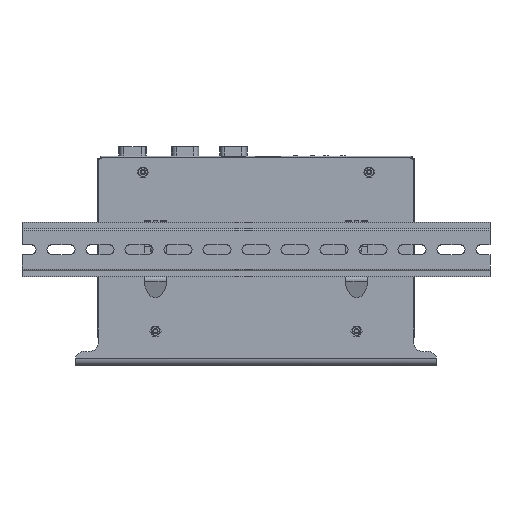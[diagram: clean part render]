
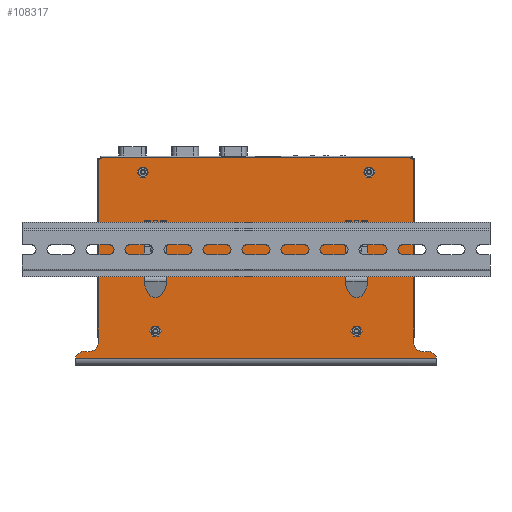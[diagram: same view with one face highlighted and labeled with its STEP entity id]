
A CAD part, front view. The second image highlights one B-rep face of the part: STEP entity #108317.
In plain terms, the highlighted planar face has unit normal (0, -1, 0) as drawn and (0, 0, -1) by its records, which use the part's own axes.
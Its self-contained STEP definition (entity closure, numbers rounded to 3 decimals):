
#107598=CARTESIAN_POINT('',(115.814,69.5,0.));
#107600=CARTESIAN_POINT('',(99.,-57.,0.));
#107601=DIRECTION('',(0.,0.,-1.));
#107602=DIRECTION('',(1.,0.,0.));
#107603=AXIS2_PLACEMENT_3D('',#107600,#107601,#107602);
#107605=DIRECTION('',(0.,-1.,0.));
#107606=VECTOR('',#107605,116.);
#107607=CARTESIAN_POINT('',(101.,59.,0.));
#107608=LINE('',#107607,#107606);
#107609=CARTESIAN_POINT('',(107.15,59.,0.));
#107610=DIRECTION('',(0.,0.,1.));
#107611=DIRECTION('',(0.22,0.976,0.));
#107612=AXIS2_PLACEMENT_3D('',#107609,#107610,#107611);
#107614=CARTESIAN_POINT('',(109.85,71.,0.));
#107615=DIRECTION('',(0.,0.,-1.));
#107616=DIRECTION('',(0.97,-0.244,0.));
#107617=AXIS2_PLACEMENT_3D('',#107614,#107615,#107616);
#107619=DIRECTION('',(1.,0.,0.));
#107620=VECTOR('',#107619,231.629);
#107621=CARTESIAN_POINT('',(-115.814,69.5,0.));
#107622=LINE('',#107621,#107620);
#107623=CARTESIAN_POINT('',(-109.85,71.,0.));
#107624=DIRECTION('',(0.,0.,-1.));
#107625=DIRECTION('',(0.22,-0.976,0.));
#107626=AXIS2_PLACEMENT_3D('',#107623,#107624,#107625);
#107628=CARTESIAN_POINT('',(-107.15,59.,0.));
#107629=DIRECTION('',(0.,0.,1.));
#107630=DIRECTION('',(1.,0.,0.));
#107631=AXIS2_PLACEMENT_3D('',#107628,#107629,#107630);
#107633=DIRECTION('',(0.,1.,0.));
#107634=VECTOR('',#107633,116.);
#107635=CARTESIAN_POINT('',(-101.,-57.,0.));
#107636=LINE('',#107635,#107634);
#107637=CARTESIAN_POINT('',(-99.,-57.,0.));
#107638=DIRECTION('',(0.,0.,-1.));
#107639=DIRECTION('',(0.,-1.,0.));
#107640=AXIS2_PLACEMENT_3D('',#107637,#107638,#107639);
#107642=DIRECTION('',(-1.,0.,0.));
#107643=VECTOR('',#107642,198.);
#107644=CARTESIAN_POINT('',(99.,-59.,0.));
#107645=LINE('',#107644,#107643);
#107646=CARTESIAN_POINT('',(-72.5,-50.,0.));
#107647=DIRECTION('',(0.,0.,1.));
#107648=DIRECTION('',(-1.,0.,0.));
#107649=AXIS2_PLACEMENT_3D('',#107646,#107647,#107648);
#107651=CARTESIAN_POINT('',(-72.5,-50.,0.));
#107652=DIRECTION('',(0.,0.,1.));
#107653=DIRECTION('',(1.,0.,0.));
#107654=AXIS2_PLACEMENT_3D('',#107651,#107652,#107653);
#107656=CARTESIAN_POINT('',(64.5,52.,0.));
#107657=DIRECTION('',(0.,0.,1.));
#107658=DIRECTION('',(-1.,0.,0.));
#107659=AXIS2_PLACEMENT_3D('',#107656,#107657,#107658);
#107661=CARTESIAN_POINT('',(64.5,52.,0.));
#107662=DIRECTION('',(0.,0.,1.));
#107663=DIRECTION('',(1.,0.,0.));
#107664=AXIS2_PLACEMENT_3D('',#107661,#107662,#107663);
#107666=CARTESIAN_POINT('',(-64.5,0.,0.));
#107667=DIRECTION('',(0.,0.,1.));
#107668=DIRECTION('',(-1.,0.,0.));
#107669=AXIS2_PLACEMENT_3D('',#107666,#107667,#107668);
#107671=CARTESIAN_POINT('',(-64.5,0.,0.));
#107672=DIRECTION('',(0.,0.,1.));
#107673=DIRECTION('',(1.,0.,0.));
#107674=AXIS2_PLACEMENT_3D('',#107671,#107672,#107673);
#107676=CARTESIAN_POINT('',(64.5,0.,0.));
#107677=DIRECTION('',(0.,0.,1.));
#107678=DIRECTION('',(-1.,0.,0.));
#107679=AXIS2_PLACEMENT_3D('',#107676,#107677,#107678);
#107681=CARTESIAN_POINT('',(64.5,0.,0.));
#107682=DIRECTION('',(0.,0.,1.));
#107683=DIRECTION('',(1.,0.,0.));
#107684=AXIS2_PLACEMENT_3D('',#107681,#107682,#107683);
#107686=CARTESIAN_POINT('',(-64.5,52.,0.));
#107687=DIRECTION('',(0.,0.,1.));
#107688=DIRECTION('',(-1.,0.,0.));
#107689=AXIS2_PLACEMENT_3D('',#107686,#107687,#107688);
#107691=CARTESIAN_POINT('',(-64.5,52.,0.));
#107692=DIRECTION('',(0.,0.,1.));
#107693=DIRECTION('',(1.,0.,0.));
#107694=AXIS2_PLACEMENT_3D('',#107691,#107692,#107693);
#107696=CARTESIAN_POINT('',(72.5,-50.,0.));
#107697=DIRECTION('',(0.,0.,1.));
#107698=DIRECTION('',(-1.,0.,0.));
#107699=AXIS2_PLACEMENT_3D('',#107696,#107697,#107698);
#107701=CARTESIAN_POINT('',(72.5,-50.,0.));
#107702=DIRECTION('',(0.,0.,1.));
#107703=DIRECTION('',(1.,0.,0.));
#107704=AXIS2_PLACEMENT_3D('',#107701,#107702,#107703);
#107966=CARTESIAN_POINT('',(99.,-59.,0.));
#107967=VERTEX_POINT('',#107966);
#107968=CARTESIAN_POINT('',(101.,-57.,0.));
#107969=VERTEX_POINT('',#107968);
#107972=CARTESIAN_POINT('',(-99.,-59.,0.));
#107973=VERTEX_POINT('',#107972);
#107988=CARTESIAN_POINT('',(-101.,-57.,0.));
#107989=VERTEX_POINT('',#107988);
#107990=CARTESIAN_POINT('',(-101.,59.,0.));
#107991=VERTEX_POINT('',#107990);
#107998=VERTEX_POINT('',#107598);
#107999=CARTESIAN_POINT('',(-115.814,69.5,0.));
#108000=VERTEX_POINT('',#107999);
#108001=CARTESIAN_POINT('',(-108.5,65.,0.));
#108002=VERTEX_POINT('',#108001);
#108003=CARTESIAN_POINT('',(108.5,65.,0.));
#108004=VERTEX_POINT('',#108003);
#108005=CARTESIAN_POINT('',(101.,59.,0.));
#108006=VERTEX_POINT('',#108005);
#108023=CARTESIAN_POINT('',(-75.225,-50.,0.));
#108025=VERTEX_POINT('',#108023);
#108027=CARTESIAN_POINT('',(-69.775,-50.,0.));
#108029=VERTEX_POINT('',#108027);
#108031=CARTESIAN_POINT('',(61.775,52.,0.));
#108033=VERTEX_POINT('',#108031);
#108035=CARTESIAN_POINT('',(67.225,52.,0.));
#108037=VERTEX_POINT('',#108035);
#108039=CARTESIAN_POINT('',(-67.225,0.,0.));
#108041=VERTEX_POINT('',#108039);
#108043=CARTESIAN_POINT('',(-61.775,0.,0.));
#108045=VERTEX_POINT('',#108043);
#108047=CARTESIAN_POINT('',(61.775,0.,0.));
#108049=VERTEX_POINT('',#108047);
#108051=CARTESIAN_POINT('',(67.225,0.,0.));
#108053=VERTEX_POINT('',#108051);
#108055=CARTESIAN_POINT('',(-67.225,52.,0.));
#108057=VERTEX_POINT('',#108055);
#108059=CARTESIAN_POINT('',(-61.775,52.,0.));
#108061=VERTEX_POINT('',#108059);
#108063=CARTESIAN_POINT('',(69.775,-50.,0.));
#108065=VERTEX_POINT('',#108063);
#108067=CARTESIAN_POINT('',(75.225,-50.,0.));
#108069=VERTEX_POINT('',#108067);
#108255=CARTESIAN_POINT('',(0.,5.25,0.));
#108256=DIRECTION('',(0.,0.,1.));
#108257=DIRECTION('',(-1.,0.,0.));
#108258=AXIS2_PLACEMENT_3D('',#108255,#108256,#108257);
#108259=PLANE('',#108258);
#108261=ORIENTED_EDGE('',*,*,#108260,.F.);
#108263=ORIENTED_EDGE('',*,*,#108262,.F.);
#108265=ORIENTED_EDGE('',*,*,#108264,.F.);
#108267=ORIENTED_EDGE('',*,*,#108266,.F.);
#108268=ORIENTED_EDGE('',*,*,#108248,.F.);
#108270=ORIENTED_EDGE('',*,*,#108269,.F.);
#108272=ORIENTED_EDGE('',*,*,#108271,.F.);
#108274=ORIENTED_EDGE('',*,*,#108273,.F.);
#108276=ORIENTED_EDGE('',*,*,#108275,.F.);
#108278=ORIENTED_EDGE('',*,*,#108277,.F.);
#108279=EDGE_LOOP('',(#108261,#108263,#108265,#108267,#108268,#108270,#108272,
#108274,#108276,#108278));
#108280=FACE_OUTER_BOUND('',#108279,.F.);
#108282=ORIENTED_EDGE('',*,*,#108281,.F.);
#108284=ORIENTED_EDGE('',*,*,#108283,.F.);
#108285=EDGE_LOOP('',(#108282,#108284));
#108286=FACE_BOUND('',#108285,.F.);
#108288=ORIENTED_EDGE('',*,*,#108287,.F.);
#108290=ORIENTED_EDGE('',*,*,#108289,.F.);
#108291=EDGE_LOOP('',(#108288,#108290));
#108292=FACE_BOUND('',#108291,.F.);
#108294=ORIENTED_EDGE('',*,*,#108293,.F.);
#108296=ORIENTED_EDGE('',*,*,#108295,.F.);
#108297=EDGE_LOOP('',(#108294,#108296));
#108298=FACE_BOUND('',#108297,.F.);
#108300=ORIENTED_EDGE('',*,*,#108299,.F.);
#108302=ORIENTED_EDGE('',*,*,#108301,.F.);
#108303=EDGE_LOOP('',(#108300,#108302));
#108304=FACE_BOUND('',#108303,.F.);
#108306=ORIENTED_EDGE('',*,*,#108305,.F.);
#108308=ORIENTED_EDGE('',*,*,#108307,.F.);
#108309=EDGE_LOOP('',(#108306,#108308));
#108310=FACE_BOUND('',#108309,.F.);
#108312=ORIENTED_EDGE('',*,*,#108311,.F.);
#108314=ORIENTED_EDGE('',*,*,#108313,.F.);
#108315=EDGE_LOOP('',(#108312,#108314));
#108316=FACE_BOUND('',#108315,.F.);
#107604=CIRCLE('',#107603,2.);
#107613=CIRCLE('',#107612,6.15);
#107618=CIRCLE('',#107617,6.15);
#107627=CIRCLE('',#107626,6.15);
#107632=CIRCLE('',#107631,6.15);
#107641=CIRCLE('',#107640,2.);
#107650=CIRCLE('',#107649,2.725);
#107655=CIRCLE('',#107654,2.725);
#107660=CIRCLE('',#107659,2.725);
#107665=CIRCLE('',#107664,2.725);
#107670=CIRCLE('',#107669,2.725);
#107675=CIRCLE('',#107674,2.725);
#107680=CIRCLE('',#107679,2.725);
#107685=CIRCLE('',#107684,2.725);
#107690=CIRCLE('',#107689,2.725);
#107695=CIRCLE('',#107694,2.725);
#107700=CIRCLE('',#107699,2.725);
#107705=CIRCLE('',#107704,2.725);
#108248=EDGE_CURVE('',#108000,#107998,#107622,.T.);
#108260=EDGE_CURVE('',#107969,#107967,#107604,.T.);
#108262=EDGE_CURVE('',#108006,#107969,#107608,.T.);
#108264=EDGE_CURVE('',#108004,#108006,#107613,.T.);
#108266=EDGE_CURVE('',#107998,#108004,#107618,.T.);
#108269=EDGE_CURVE('',#108002,#108000,#107627,.T.);
#108271=EDGE_CURVE('',#107991,#108002,#107632,.T.);
#108273=EDGE_CURVE('',#107989,#107991,#107636,.T.);
#108275=EDGE_CURVE('',#107973,#107989,#107641,.T.);
#108277=EDGE_CURVE('',#107967,#107973,#107645,.T.);
#108281=EDGE_CURVE('',#108025,#108029,#107650,.T.);
#108283=EDGE_CURVE('',#108029,#108025,#107655,.T.);
#108287=EDGE_CURVE('',#108033,#108037,#107660,.T.);
#108289=EDGE_CURVE('',#108037,#108033,#107665,.T.);
#108293=EDGE_CURVE('',#108041,#108045,#107670,.T.);
#108295=EDGE_CURVE('',#108045,#108041,#107675,.T.);
#108299=EDGE_CURVE('',#108049,#108053,#107680,.T.);
#108301=EDGE_CURVE('',#108053,#108049,#107685,.T.);
#108305=EDGE_CURVE('',#108057,#108061,#107690,.T.);
#108307=EDGE_CURVE('',#108061,#108057,#107695,.T.);
#108311=EDGE_CURVE('',#108065,#108069,#107700,.T.);
#108313=EDGE_CURVE('',#108069,#108065,#107705,.T.);
#108317=ADVANCED_FACE('',(#108280,#108286,#108292,#108298,#108304,#108310,
#108316),#108259,.F.);
